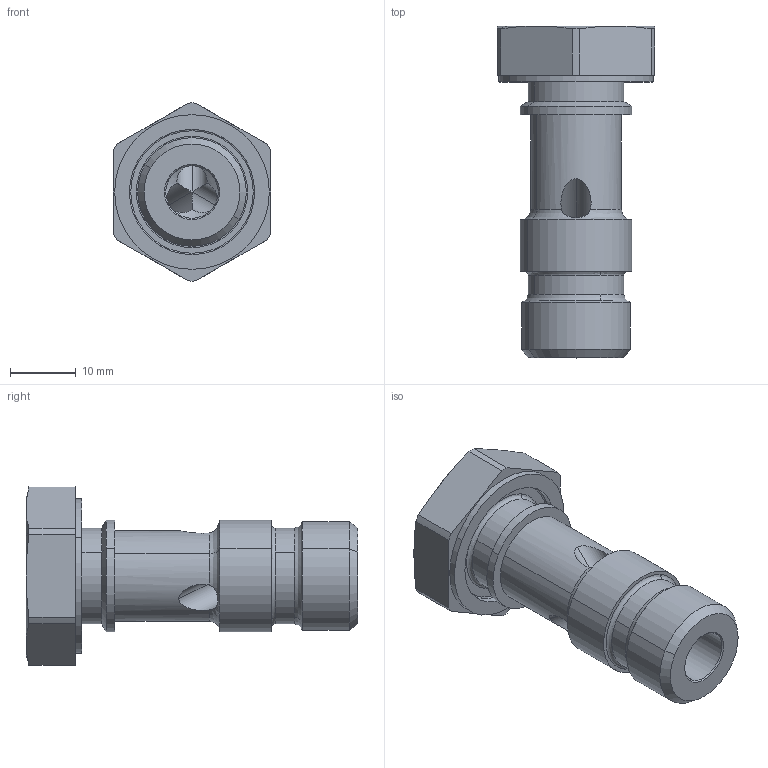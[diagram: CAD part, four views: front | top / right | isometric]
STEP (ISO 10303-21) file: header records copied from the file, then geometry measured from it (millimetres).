
FILE_DESCRIPTION((''),'2;1');
FILE_NAME('108103.0.stp','2007-11-06T08:31:04',(''),(''),'AutoCAD STEP 2000i','AutoCAD 2000i',', , ');
FILE_SCHEMA(('CONFIG_CONTROL_DESIGN'));
Length unit declared in the file: millimetre
Products named in the file (2): 108103.0; 1081#0
Assembly tree (1 placements, depth 2):
  108103.0
    1081#0
Bounding box: 24 x 50.5 x 27.1 mm (x, y, z)
Volume: 10441.7 mm3; surface area: 4675 mm2
Topology: 1 solids, 1 shells, 74 faces, 193 edges, 121 vertices
Faces by surface type: cylinder 30, cone 21, plane 13, bspline 10
Entity records: 3058 total; most frequent: CARTESIAN_POINT 1161, DIRECTION 388, ORIENTED_EDGE 386, EDGE_CURVE 193, AXIS2_PLACEMENT_3D 167, VERTEX_POINT 121, CIRCLE 98, EDGE_LOOP 80
